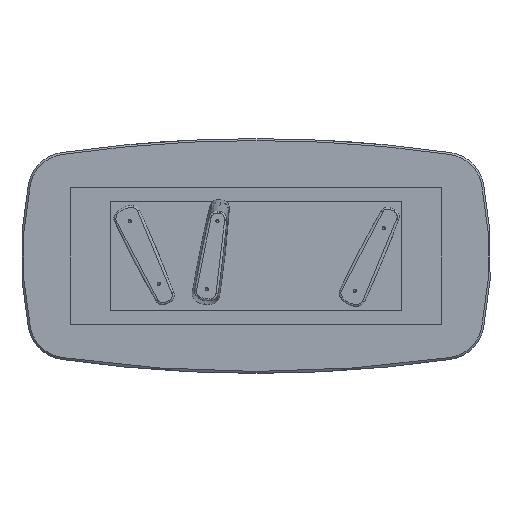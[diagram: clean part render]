
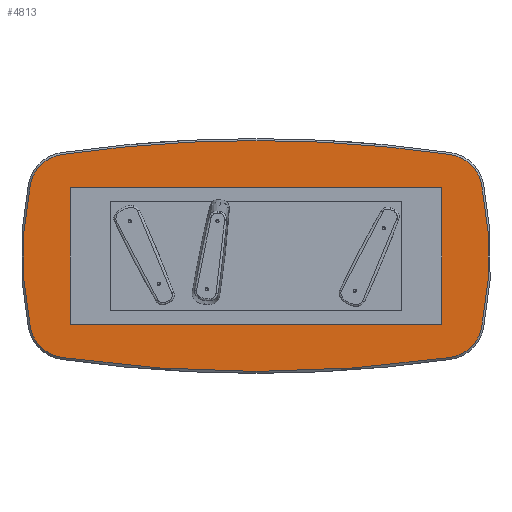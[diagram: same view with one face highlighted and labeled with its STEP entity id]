
A CAD part, front view. The second image highlights one B-rep face of the part: STEP entity #4813.
In plain terms, the highlighted planar face has unit normal (0, -1, 0).
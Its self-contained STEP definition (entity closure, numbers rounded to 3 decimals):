
#89 = EDGE_LOOP ( 'NONE', ( #2322, #3682, #4302, #6516, #2420, #1517, #3273, #3689, #3242 ) ) ;
#376 = AXIS2_PLACEMENT_3D ( 'NONE', #4366, #4941, #5983 ) ;
#383 = CARTESIAN_POINT ( 'NONE',  ( 966.467, 65., -330.452 ) ) ;
#415 = DIRECTION ( 'NONE',  ( 0., -1., 0. ) ) ;
#441 = CARTESIAN_POINT ( 'NONE',  ( -993.671, 65., 518.495 ) ) ;
#576 = CIRCLE ( 'NONE', #5977, 1835. ) ;
#603 = VERTEX_POINT ( 'NONE', #3937 ) ;
#627 = DIRECTION ( 'NONE',  ( 0., 0., -1. ) ) ;
#896 = VERTEX_POINT ( 'NONE', #1741 ) ;
#994 = CARTESIAN_POINT ( 'NONE',  ( 1152.594, 65., 368.62 ) ) ;
#1026 = AXIS2_PLACEMENT_3D ( 'NONE', #3379, #6079, #3437 ) ;
#1109 = DIRECTION ( 'NONE',  ( 0., 0., -1. ) ) ;
#1213 = DIRECTION ( 'NONE',  ( 0., 0., -1. ) ) ;
#1239 = VERTEX_POINT ( 'NONE', #2010 ) ;
#1257 = EDGE_CURVE ( 'NONE', #2659, #6832, #6190, .T. ) ;
#1517 = ORIENTED_EDGE ( 'NONE', *, *, #2938, .T. ) ;
#1528 = DIRECTION ( 'NONE',  ( 0., -1., 0. ) ) ;
#1535 = EDGE_CURVE ( 'NONE', #896, #6686, #576, .T. ) ;
#1629 = CARTESIAN_POINT ( 'NONE',  ( 645., 65., 0. ) ) ;
#1741 = CARTESIAN_POINT ( 'NONE',  ( 1152.594, 65., -368.62 ) ) ;
#1758 = CARTESIAN_POINT ( 'NONE',  ( 0., 65., 590. ) ) ;
#1788 = PLANE ( 'NONE',  #3449 ) ;
#1932 = CARTESIAN_POINT ( 'NONE',  ( -966.467, 65., -330.452 ) ) ;
#1967 = CARTESIAN_POINT ( 'NONE',  ( 993.671, 65., 518.495 ) ) ;
#1975 = EDGE_CURVE ( 'NONE', #1239, #2659, #5090, .T. ) ;
#2010 = CARTESIAN_POINT ( 'NONE',  ( -1152.594, 65., -368.62 ) ) ;
#2208 = VERTEX_POINT ( 'NONE', #1967 ) ;
#2269 = DIRECTION ( 'NONE',  ( 0., -1., 0. ) ) ;
#2322 = ORIENTED_EDGE ( 'NONE', *, *, #1975, .T. ) ;
#2420 = ORIENTED_EDGE ( 'NONE', *, *, #4006, .T. ) ;
#2548 = CARTESIAN_POINT ( 'NONE',  ( 0., 65., -6350. ) ) ;
#2579 = DIRECTION ( 'NONE',  ( 0., -1., 0. ) ) ;
#2659 = VERTEX_POINT ( 'NONE', #3932 ) ;
#2871 = CARTESIAN_POINT ( 'NONE',  ( 160.734, 65., -165.226 ) ) ;
#2914 = CIRCLE ( 'NONE', #4982, 6940. ) ;
#2938 = EDGE_CURVE ( 'NONE', #2208, #4846, #6657, .T. ) ;
#3242 = ORIENTED_EDGE ( 'NONE', *, *, #4049, .T. ) ;
#3273 = ORIENTED_EDGE ( 'NONE', *, *, #5228, .T. ) ;
#3379 = CARTESIAN_POINT ( 'NONE',  ( -966.467, 65., 330.452 ) ) ;
#3437 = DIRECTION ( 'NONE',  ( 0., 0., -1. ) ) ;
#3449 = AXIS2_PLACEMENT_3D ( 'NONE', #2871, #5397, #5527 ) ;
#3634 = CARTESIAN_POINT ( 'NONE',  ( 993.671, 65., -518.495 ) ) ;
#3682 = ORIENTED_EDGE ( 'NONE', *, *, #1257, .T. ) ;
#3689 = ORIENTED_EDGE ( 'NONE', *, *, #4771, .T. ) ;
#3691 = CARTESIAN_POINT ( 'NONE',  ( -645., 65., 0. ) ) ;
#3724 = DIRECTION ( 'NONE',  ( 0., -1., 0. ) ) ;
#3893 = CIRCLE ( 'NONE', #5323, 190. ) ;
#3932 = CARTESIAN_POINT ( 'NONE',  ( -993.671, 65., -518.495 ) ) ;
#3937 = CARTESIAN_POINT ( 'NONE',  ( -1152.594, 65., 368.62 ) ) ;
#4006 = EDGE_CURVE ( 'NONE', #6686, #2208, #6215, .T. ) ;
#4049 = EDGE_CURVE ( 'NONE', #603, #1239, #4446, .T. ) ;
#4269 = EDGE_CURVE ( 'NONE', #6832, #896, #3893, .T. ) ;
#4302 = ORIENTED_EDGE ( 'NONE', *, *, #4269, .T. ) ;
#4329 = AXIS2_PLACEMENT_3D ( 'NONE', #4924, #5932, #627 ) ;
#4366 = CARTESIAN_POINT ( 'NONE',  ( 0., 65., -6350. ) ) ;
#4446 = CIRCLE ( 'NONE', #4559, 1835. ) ;
#4559 = AXIS2_PLACEMENT_3D ( 'NONE', #1629, #3724, #1109 ) ;
#4771 = EDGE_CURVE ( 'NONE', #6627, #603, #6554, .T. ) ;
#4813 = ADVANCED_FACE ( 'NONE', ( #5497 ), #1788, .T. ) ;
#4846 = VERTEX_POINT ( 'NONE', #1758 ) ;
#4924 = CARTESIAN_POINT ( 'NONE',  ( 0., 65., 6350. ) ) ;
#4941 = DIRECTION ( 'NONE',  ( 0., -1., 0. ) ) ;
#4958 = DIRECTION ( 'NONE',  ( 0., 0., -1. ) ) ;
#4982 = AXIS2_PLACEMENT_3D ( 'NONE', #2548, #1528, #5271 ) ;
#5090 = CIRCLE ( 'NONE', #5982, 190. ) ;
#5228 = EDGE_CURVE ( 'NONE', #4846, #6627, #2914, .T. ) ;
#5271 = DIRECTION ( 'NONE',  ( 0., 0., -1. ) ) ;
#5323 = AXIS2_PLACEMENT_3D ( 'NONE', #383, #415, #6166 ) ;
#5397 = DIRECTION ( 'NONE',  ( 0., -1., 0. ) ) ;
#5497 = FACE_OUTER_BOUND ( 'NONE', #89, .T. ) ;
#5527 = DIRECTION ( 'NONE',  ( 0., 0., -1. ) ) ;
#5660 = AXIS2_PLACEMENT_3D ( 'NONE', #5937, #2269, #1213 ) ;
#5797 = DIRECTION ( 'NONE',  ( 0., 0., -1. ) ) ;
#5932 = DIRECTION ( 'NONE',  ( 0., -1., 0. ) ) ;
#5937 = CARTESIAN_POINT ( 'NONE',  ( 966.467, 65., 330.452 ) ) ;
#5977 = AXIS2_PLACEMENT_3D ( 'NONE', #3691, #2579, #5797 ) ;
#5982 = AXIS2_PLACEMENT_3D ( 'NONE', #1932, #6660, #4958 ) ;
#5983 = DIRECTION ( 'NONE',  ( 0., 0., -1. ) ) ;
#6079 = DIRECTION ( 'NONE',  ( 0., -1., 0. ) ) ;
#6166 = DIRECTION ( 'NONE',  ( 0., 0., -1. ) ) ;
#6190 = CIRCLE ( 'NONE', #4329, 6940. ) ;
#6215 = CIRCLE ( 'NONE', #5660, 190. ) ;
#6516 = ORIENTED_EDGE ( 'NONE', *, *, #1535, .T. ) ;
#6554 = CIRCLE ( 'NONE', #1026, 190. ) ;
#6627 = VERTEX_POINT ( 'NONE', #441 ) ;
#6657 = CIRCLE ( 'NONE', #376, 6940. ) ;
#6660 = DIRECTION ( 'NONE',  ( 0., -1., 0. ) ) ;
#6686 = VERTEX_POINT ( 'NONE', #994 ) ;
#6832 = VERTEX_POINT ( 'NONE', #3634 ) ;
